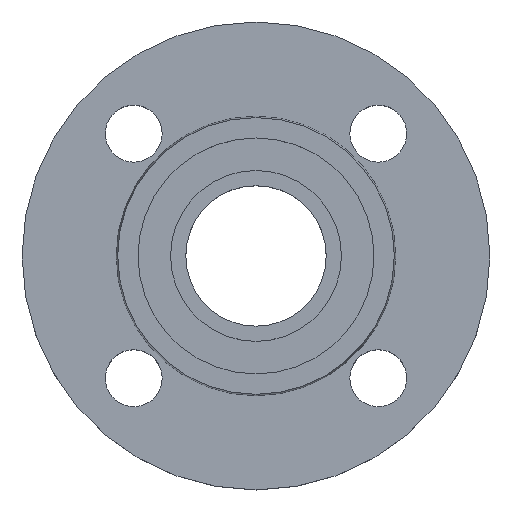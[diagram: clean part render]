
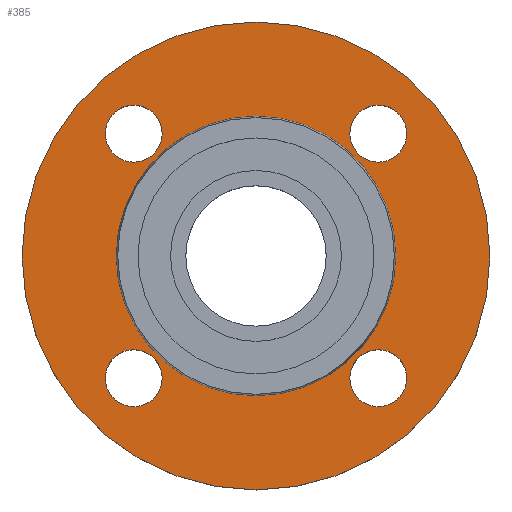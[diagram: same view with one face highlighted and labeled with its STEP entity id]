
A CAD part, top view. The second image highlights one B-rep face of the part: STEP entity #385.
In plain terms, the highlighted planar face has unit normal (0, 0, 1).
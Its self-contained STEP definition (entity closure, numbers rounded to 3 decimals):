
#8 = CARTESIAN_POINT ( 'NONE',  ( -34.353, 0., -2. ) ) ;
#12 = AXIS2_PLACEMENT_3D ( 'NONE', #106, #104, #102 ) ;
#13 = CIRCLE ( 'NONE', #12, 57.5 ) ;
#14 = AXIS2_PLACEMENT_3D ( 'NONE', #88, #110, #109 ) ;
#17 = CIRCLE ( 'NONE', #14, 7. ) ;
#25 = EDGE_CURVE ( 'NONE', #419, #401, #219, .T. ) ;
#54 = EDGE_CURVE ( 'NONE', #401, #419, #145, .T. ) ;
#65 = CARTESIAN_POINT ( 'NONE',  ( 37.052, 30.052, -2. ) ) ;
#78 = CARTESIAN_POINT ( 'NONE',  ( 34.353, 0., -2. ) ) ;
#88 = CARTESIAN_POINT ( 'NONE',  ( -30.052, -30.052, -2. ) ) ;
#102 = DIRECTION ( 'NONE',  ( -1., 0., 0. ) ) ;
#104 = DIRECTION ( 'NONE',  ( 0., 0., -1. ) ) ;
#106 = CARTESIAN_POINT ( 'NONE',  ( 0., 0., -2. ) ) ;
#109 = DIRECTION ( 'NONE',  ( 1., 0., 0. ) ) ;
#110 = DIRECTION ( 'NONE',  ( 0., 0., -1. ) ) ;
#122 = EDGE_CURVE ( 'NONE', #410, #585, #329, .T. ) ;
#125 = AXIS2_PLACEMENT_3D ( 'NONE', #343, #344, #345 ) ;
#130 = AXIS2_PLACEMENT_3D ( 'NONE', #640, #641, #642 ) ;
#133 = DIRECTION ( 'NONE',  ( 0., 0., -1. ) ) ;
#138 = CIRCLE ( 'NONE', #442, 7. ) ;
#139 = CARTESIAN_POINT ( 'NONE',  ( 30.052, 30.052, -2. ) ) ;
#142 = EDGE_CURVE ( 'NONE', #406, #486, #257, .T. ) ;
#145 = CIRCLE ( 'NONE', #130, 34.353 ) ;
#168 = EDGE_CURVE ( 'NONE', #585, #410, #192, .T. ) ;
#169 = EDGE_CURVE ( 'NONE', #486, #406, #207, .T. ) ;
#175 = CARTESIAN_POINT ( 'NONE',  ( -57.5, 0., -2. ) ) ;
#183 = CARTESIAN_POINT ( 'NONE',  ( -37.052, 30.052, -2. ) ) ;
#190 = CARTESIAN_POINT ( 'NONE',  ( 23.052, 30.052, -2. ) ) ;
#192 = CIRCLE ( 'NONE', #193, 7. ) ;
#193 = AXIS2_PLACEMENT_3D ( 'NONE', #688, #689, #690 ) ;
#198 = CARTESIAN_POINT ( 'NONE',  ( 23.052, -30.052, -2. ) ) ;
#202 = DIRECTION ( 'NONE',  ( 1., 0., 0. ) ) ;
#204 = CARTESIAN_POINT ( 'NONE',  ( 57.5, 0., -2. ) ) ;
#207 = CIRCLE ( 'NONE', #424, 7. ) ;
#214 = CARTESIAN_POINT ( 'NONE',  ( -23.052, 30.052, -2. ) ) ;
#216 = CARTESIAN_POINT ( 'NONE',  ( 37.052, -30.052, -2. ) ) ;
#219 = CIRCLE ( 'NONE', #237, 34.353 ) ;
#228 = AXIS2_PLACEMENT_3D ( 'NONE', #294, #295, #296 ) ;
#233 = CIRCLE ( 'NONE', #278, 7. ) ;
#237 = AXIS2_PLACEMENT_3D ( 'NONE', #619, #620, #621 ) ;
#238 = AXIS2_PLACEMENT_3D ( 'NONE', #677, #678, #679 ) ;
#242 = CARTESIAN_POINT ( 'NONE',  ( 30.052, 30.052, -2. ) ) ;
#244 = DIRECTION ( 'NONE',  ( 0., 0., -1. ) ) ;
#246 = DIRECTION ( 'NONE',  ( 1., 0., 0. ) ) ;
#257 = CIRCLE ( 'NONE', #238, 7. ) ;
#268 = AXIS2_PLACEMENT_3D ( 'NONE', #670, #671, #672 ) ;
#278 = AXIS2_PLACEMENT_3D ( 'NONE', #242, #244, #246 ) ;
#282 = CARTESIAN_POINT ( 'NONE',  ( -30.052, -30.052, -2. ) ) ;
#283 = DIRECTION ( 'NONE',  ( 0., 0., -1. ) ) ;
#286 = DIRECTION ( 'NONE',  ( 1., 0., 0. ) ) ;
#294 = CARTESIAN_POINT ( 'NONE',  ( 0., 0., -2. ) ) ;
#295 = DIRECTION ( 'NONE',  ( 0., 0., -1. ) ) ;
#296 = DIRECTION ( 'NONE',  ( -1., 0., 0. ) ) ;
#315 = EDGE_CURVE ( 'NONE', #448, #581, #233, .T. ) ;
#329 = CIRCLE ( 'NONE', #268, 7. ) ;
#334 = FACE_BOUND ( 'NONE', #589, .T. ) ;
#336 = FACE_BOUND ( 'NONE', #572, .T. ) ;
#337 = FACE_BOUND ( 'NONE', #564, .T. ) ;
#338 = FACE_BOUND ( 'NONE', #591, .T. ) ;
#340 = FACE_BOUND ( 'NONE', #592, .T. ) ;
#341 = FACE_OUTER_BOUND ( 'NONE', #587, .T. ) ;
#342 = PLANE ( 'NONE',  #125 ) ;
#343 = CARTESIAN_POINT ( 'NONE',  ( 34.353, 0., -2. ) ) ;
#344 = DIRECTION ( 'NONE',  ( 0., 0., 1. ) ) ;
#345 = DIRECTION ( 'NONE',  ( 1., 0., 0. ) ) ;
#362 = CARTESIAN_POINT ( 'NONE',  ( -37.052, -30.052, -2. ) ) ;
#363 = AXIS2_PLACEMENT_3D ( 'NONE', #139, #133, #202 ) ;
#367 = CARTESIAN_POINT ( 'NONE',  ( -23.052, -30.052, -2. ) ) ;
#373 = CIRCLE ( 'NONE', #228, 57.5 ) ;
#374 = EDGE_CURVE ( 'NONE', #396, #488, #138, .T. ) ;
#381 = EDGE_CURVE ( 'NONE', #405, #446, #373, .T. ) ;
#385 = ADVANCED_FACE ( 'NONE', ( #334, #336, #337, #338, #340, #341 ), #342, .T. ) ;
#396 = VERTEX_POINT ( 'NONE', #367 ) ;
#401 = VERTEX_POINT ( 'NONE', #78 ) ;
#405 = VERTEX_POINT ( 'NONE', #204 ) ;
#406 = VERTEX_POINT ( 'NONE', #214 ) ;
#410 = VERTEX_POINT ( 'NONE', #216 ) ;
#419 = VERTEX_POINT ( 'NONE', #8 ) ;
#424 = AXIS2_PLACEMENT_3D ( 'NONE', #691, #692, #693 ) ;
#442 = AXIS2_PLACEMENT_3D ( 'NONE', #282, #283, #286 ) ;
#446 = VERTEX_POINT ( 'NONE', #175 ) ;
#448 = VERTEX_POINT ( 'NONE', #190 ) ;
#486 = VERTEX_POINT ( 'NONE', #183 ) ;
#487 = ORIENTED_EDGE ( 'NONE', *, *, #122, .T. ) ;
#488 = VERTEX_POINT ( 'NONE', #362 ) ;
#490 = ORIENTED_EDGE ( 'NONE', *, *, #168, .T. ) ;
#491 = ORIENTED_EDGE ( 'NONE', *, *, #374, .T. ) ;
#493 = ORIENTED_EDGE ( 'NONE', *, *, #687, .T. ) ;
#494 = ORIENTED_EDGE ( 'NONE', *, *, #142, .T. ) ;
#495 = ORIENTED_EDGE ( 'NONE', *, *, #169, .T. ) ;
#496 = ORIENTED_EDGE ( 'NONE', *, *, #542, .T. ) ;
#497 = ORIENTED_EDGE ( 'NONE', *, *, #315, .T. ) ;
#498 = ORIENTED_EDGE ( 'NONE', *, *, #25, .T. ) ;
#499 = ORIENTED_EDGE ( 'NONE', *, *, #54, .T. ) ;
#500 = ORIENTED_EDGE ( 'NONE', *, *, #381, .F. ) ;
#502 = ORIENTED_EDGE ( 'NONE', *, *, #706, .F. ) ;
#542 = EDGE_CURVE ( 'NONE', #581, #448, #646, .T. ) ;
#564 = EDGE_LOOP ( 'NONE', ( #494, #495 ) ) ;
#572 = EDGE_LOOP ( 'NONE', ( #491, #493 ) ) ;
#581 = VERTEX_POINT ( 'NONE', #65 ) ;
#585 = VERTEX_POINT ( 'NONE', #198 ) ;
#587 = EDGE_LOOP ( 'NONE', ( #500, #502 ) ) ;
#589 = EDGE_LOOP ( 'NONE', ( #487, #490 ) ) ;
#591 = EDGE_LOOP ( 'NONE', ( #496, #497 ) ) ;
#592 = EDGE_LOOP ( 'NONE', ( #498, #499 ) ) ;
#619 = CARTESIAN_POINT ( 'NONE',  ( 0., 0., -2. ) ) ;
#620 = DIRECTION ( 'NONE',  ( 0., 0., -1. ) ) ;
#621 = DIRECTION ( 'NONE',  ( -1., 0., 0. ) ) ;
#640 = CARTESIAN_POINT ( 'NONE',  ( 0., 0., -2. ) ) ;
#641 = DIRECTION ( 'NONE',  ( 0., 0., -1. ) ) ;
#642 = DIRECTION ( 'NONE',  ( -1., 0., 0. ) ) ;
#646 = CIRCLE ( 'NONE', #363, 7. ) ;
#670 = CARTESIAN_POINT ( 'NONE',  ( 30.052, -30.052, -2. ) ) ;
#671 = DIRECTION ( 'NONE',  ( 0., 0., -1. ) ) ;
#672 = DIRECTION ( 'NONE',  ( 1., 0., 0. ) ) ;
#677 = CARTESIAN_POINT ( 'NONE',  ( -30.052, 30.052, -2. ) ) ;
#678 = DIRECTION ( 'NONE',  ( 0., 0., -1. ) ) ;
#679 = DIRECTION ( 'NONE',  ( 1., 0., 0. ) ) ;
#687 = EDGE_CURVE ( 'NONE', #488, #396, #17, .T. ) ;
#688 = CARTESIAN_POINT ( 'NONE',  ( 30.052, -30.052, -2. ) ) ;
#689 = DIRECTION ( 'NONE',  ( 0., 0., -1. ) ) ;
#690 = DIRECTION ( 'NONE',  ( 1., 0., 0. ) ) ;
#691 = CARTESIAN_POINT ( 'NONE',  ( -30.052, 30.052, -2. ) ) ;
#692 = DIRECTION ( 'NONE',  ( 0., 0., -1. ) ) ;
#693 = DIRECTION ( 'NONE',  ( 1., 0., 0. ) ) ;
#706 = EDGE_CURVE ( 'NONE', #446, #405, #13, .T. ) ;
